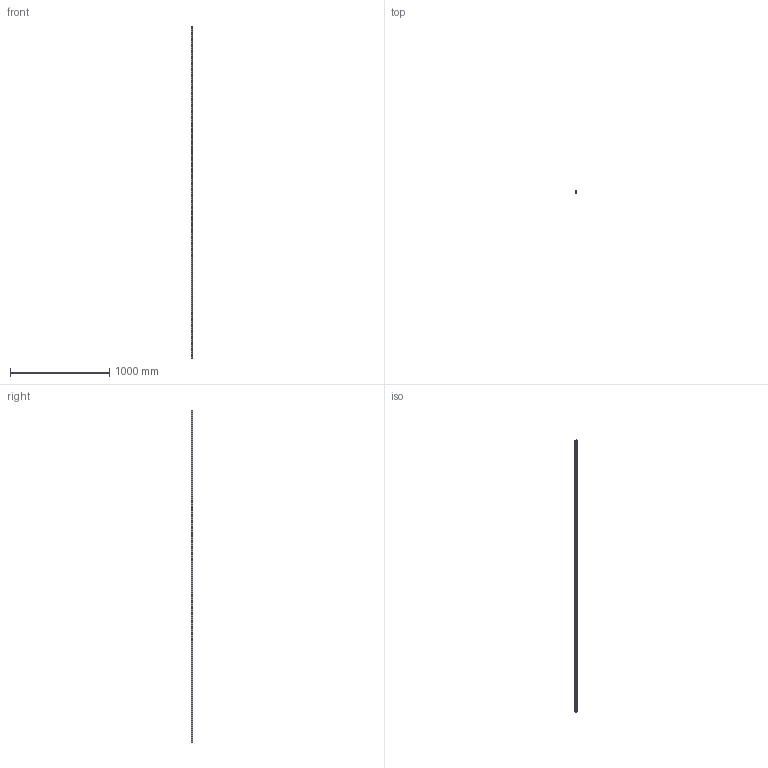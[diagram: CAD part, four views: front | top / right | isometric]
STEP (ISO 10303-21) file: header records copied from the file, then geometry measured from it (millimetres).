
FILE_DESCRIPTION (( 'STEP AP203' ), '1' );
FILE_NAME ('L1016.BL20-3340.step', '2019-06-12T11:56:41', ( '' ), ( '' ), 'SwSTEP 2.0', 'SolidWorks 2017', '' );
FILE_SCHEMA (( 'CONFIG_CONTROL_DESIGN' ));
Length unit declared in the file: millimetre
Products named in the file (1): L1016.BL20-3340
Bounding box: 20 x 16.3 x 3340 mm (x, y, z)
Volume: 928462.9 mm3; surface area: 268562.5 mm2
Topology: 1 solids, 1 shells, 306 faces, 744 edges, 496 vertices
Faces by surface type: cylinder 228, plane 78
Entity records: 9525 total; most frequent: DIRECTION 1814, CARTESIAN_POINT 1547, ORIENTED_EDGE 1488, AXIS2_PLACEMENT_3D 763, EDGE_CURVE 744, VERTEX_POINT 496, EDGE_LOOP 474, CIRCLE 456
